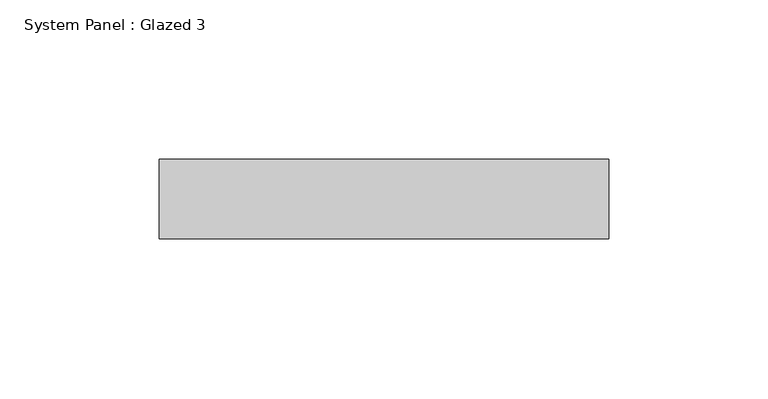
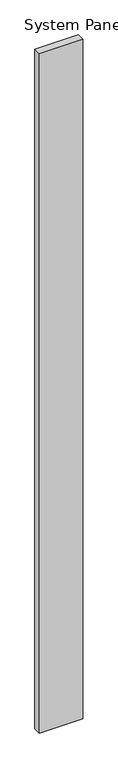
"""IFC4 building model written with IfcOpenShell, lengths in millimetres: plate geometry, System Panel : Glazed 3."""

from ifc_helpers import new_model, si_unit, origin, origin_with_axes, place, context, project, spatial, polyline, outline, extrude, source, transform, mapped, element, save


def system_panel_glazed_3_bbe2ff3f(model_context):
    return source(origin(), model_context, "Body", "SweptSolid", [
        extrude(outline(polyline([(70.7189935, -12.5), (-70.7189935, -12.5), (-70.7189935, 12.5), (70.7189935, 12.5), (70.7189935, -12.5)])), origin_with_axes(), (0.0, 0.0, 1.0), 2340.3266132),
    ])


if __name__ == "__main__":
    model = new_model("IFC4")
    model_context = context("Model", 3, world=origin())
    ifc_project = project(units=[si_unit("LENGTHUNIT", "METRE", prefix="MILLI")], contexts=[model_context])
    site = spatial("IfcSite", under=ifc_project)
    building = spatial("IfcBuilding", under=site)
    placement = place(None, origin())
    system_panel_glazed_3_shape = system_panel_glazed_3_bbe2ff3f(model_context)
    element("IfcPlate", 1, ObjectType="System Panel : Glazed 3", at=placement, inside=building, context=model_context, shape_type="MappedRepresentation", body=[
        mapped(system_panel_glazed_3_shape, transform((0.0, 0.0, 0.0), x_axis=(1.0, 0.0, 0.0), y_axis=(0.0, 1.0, 0.0), z_axis=(0.0, 0.0, 1.0))),
    ])
    save(model, "model.ifc")
